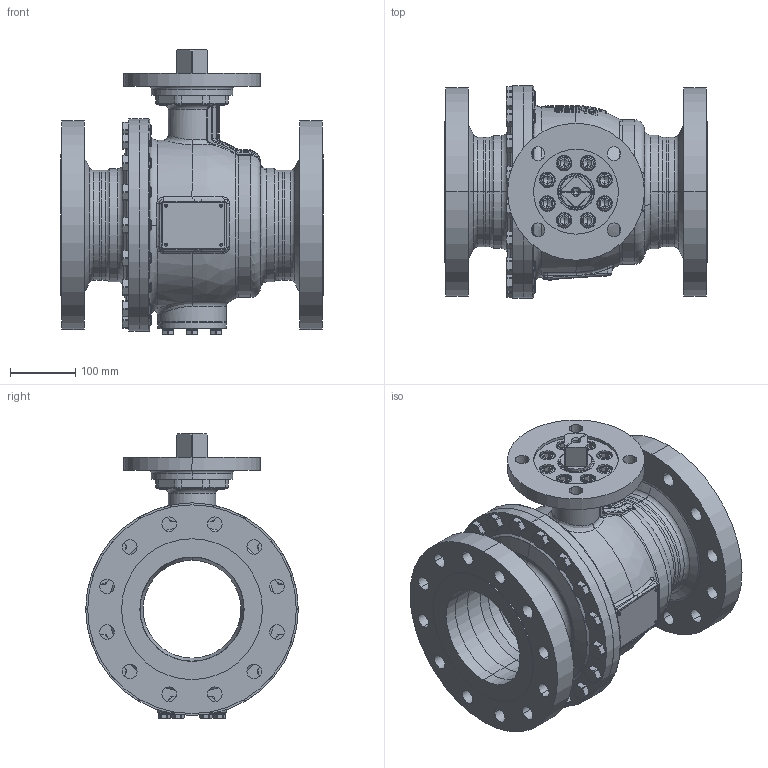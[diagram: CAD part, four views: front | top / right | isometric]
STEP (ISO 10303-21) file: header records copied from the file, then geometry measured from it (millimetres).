
FILE_DESCRIPTION((''),'2;1');
FILE_NAME('KHI-F_150_CL300-F16-4_SW0001','2026-02-05T11:55:26',('fischerkl'),('KLINGER'),'CREO PARAMETRIC BY PTC INC, 2023014','CREO PARAMETRIC BY PTC INC, 2023014','');
FILE_SCHEMA(('CONFIG_CONTROL_DESIGN'));
Products named in the file (1): KHI-F_150_CL300-F16-4_SW0001
Bounding box: 403 x 326 x 436.2 mm (x, y, z)
Volume: 10252809.7 mm3; surface area: 1696344.3 mm2
Topology: 1 solids, 4 shells, 3746 faces, 9586 edges, 5980 vertices
Faces by surface type: plane 2285, cylinder 690, cone 370, torus 260, bspline 113, sphere 28
Entity records: 145014 total; most frequent: CARTESIAN_POINT 56421, ORIENTED_EDGE 19120, DIRECTION 17524, EDGE_CURVE 9560, AXIS2_PLACEMENT_3D 6190, VERTEX_POINT 5980, VECTOR 5144, LINE 5144
